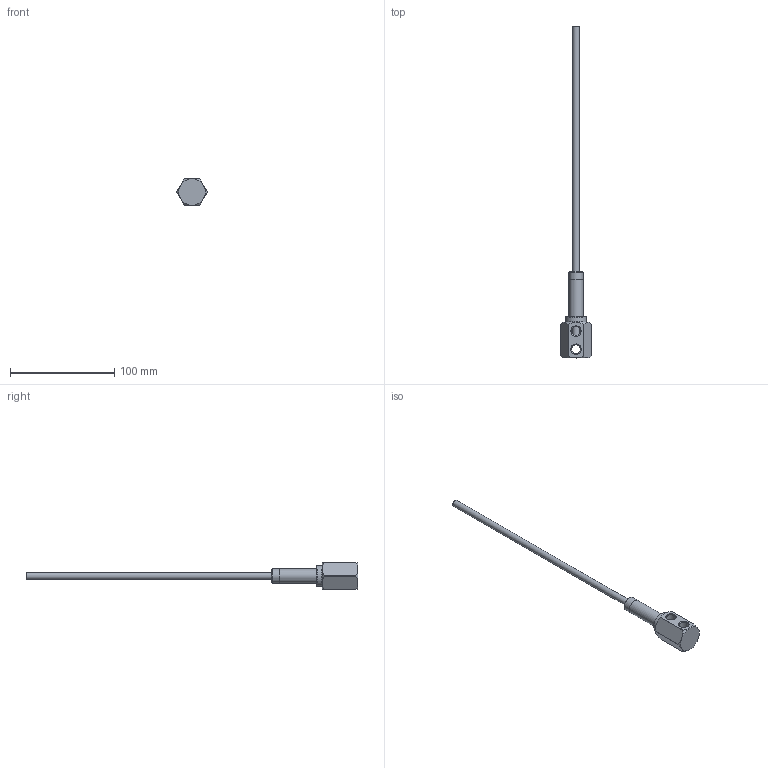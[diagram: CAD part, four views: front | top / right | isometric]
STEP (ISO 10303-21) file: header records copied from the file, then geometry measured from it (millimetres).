
FILE_DESCRIPTION(/* description */ (''),/* implementation_level */ '2;1');
FILE_NAME(/* name */ 'C:/Users/drich/Desktop/146N-HFT v1.step',/* time_stamp */ '2020-01-15T19:37:25-06:00',/* author */ (''),/* organization */ (''),/* preprocessor_version */ 'ST-DEVELOPER v18',/* originating_system */ 'Autodesk Translation Framework v8.12.0.6',/* authorisation */ '');
FILE_SCHEMA (('AUTOMOTIVE_DESIGN { 1 0 10303 214 3 1 1 }'));
Length unit declared in the file: inch
Products named in the file (4): 146N-HFT; 146H; SSPN14-2; HF250T-12
Assembly tree (3 placements, depth 2):
  146N-HFT
    146H
    SSPN14-2
    HF250T-12
Bounding box: 29.26 x 317.8 x 25.4 mm (x, y, z)
Volume: 21915.2 mm3; surface area: 21278 mm2
Topology: 3 solids, 3 shells, 54 faces, 145 edges, 101 vertices
Faces by surface type: cylinder 20, plane 17, cone 12, torus 5
Full cylindrical faces by diameter (mm): 5.842 x1, 6.35 x1, 6.909 x1, 7.818 x1, 7.976 x1, 8.707 x3, 9.246 x1, 11.668 x1, 13.665 x2, 13.716 x1, 19.812 x1
Entity records: 1980 total; most frequent: CARTESIAN_POINT 442, DIRECTION 330, ORIENTED_EDGE 290, AXIS2_PLACEMENT_3D 147, EDGE_CURVE 145, VERTEX_POINT 101, CIRCLE 86, EDGE_LOOP 68
